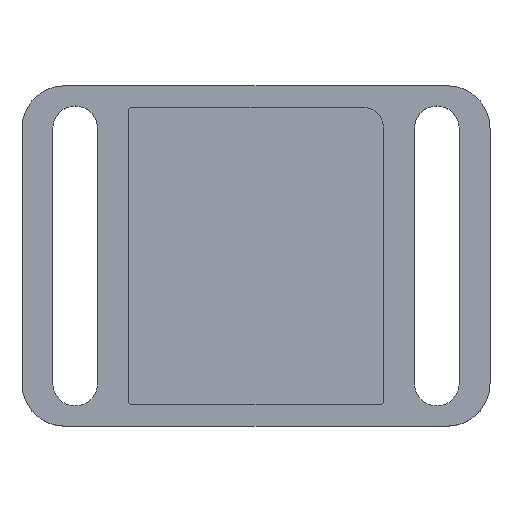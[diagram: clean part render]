
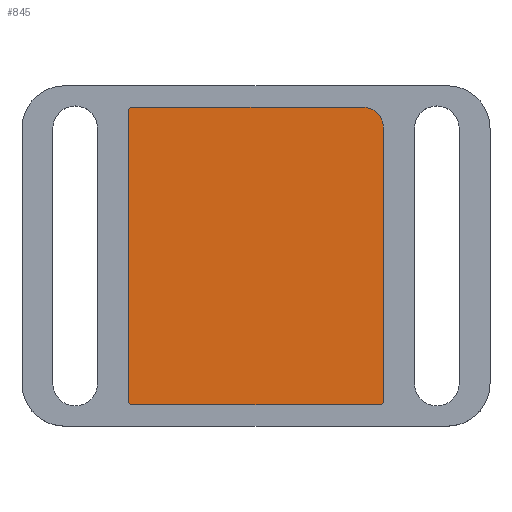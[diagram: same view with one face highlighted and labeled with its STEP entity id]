
A CAD part, top view. The second image highlights one B-rep face of the part: STEP entity #845.
In plain terms, the highlighted planar face has unit normal (0, 0, 1).
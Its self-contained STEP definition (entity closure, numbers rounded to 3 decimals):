
#296=AXIS2_PLACEMENT_3D('Circle Axis2P3D',#294,#295,$) ;
#367=AXIS2_PLACEMENT_3D('Circle Axis2P3D',#365,#366,$) ;
#429=AXIS2_PLACEMENT_3D('Circle Axis2P3D',#427,#428,$) ;
#828=AXIS2_PLACEMENT_3D('Plane Axis2P3D',#825,#826,#827) ;
#832=AXIS2_PLACEMENT_3D('Circle Axis2P3D',#830,#831,$) ;
#289=CARTESIAN_POINT('Vertex',(25.,-6.,3.)) ;
#294=CARTESIAN_POINT('Axis2P3D Location',(26.,-6.,3.)) ;
#298=CARTESIAN_POINT('Vertex',(26.,-5.,3.)) ;
#325=CARTESIAN_POINT('Line Origine',(25.,-40.,3.)) ;
#329=CARTESIAN_POINT('Vertex',(25.,-74.,3.)) ;
#360=CARTESIAN_POINT('Vertex',(26.,-75.,3.)) ;
#365=CARTESIAN_POINT('Axis2P3D Location',(26.,-74.,3.)) ;
#391=CARTESIAN_POINT('Vertex',(84.,-75.,3.)) ;
#396=CARTESIAN_POINT('Line Origine',(55.,-75.,3.)) ;
#422=CARTESIAN_POINT('Vertex',(85.,-74.,3.)) ;
#427=CARTESIAN_POINT('Axis2P3D Location',(84.,-74.,3.)) ;
#786=CARTESIAN_POINT('Vertex',(80.,-5.,3.)) ;
#789=CARTESIAN_POINT('Line Origine',(53.,-5.,3.)) ;
#806=CARTESIAN_POINT('Line Origine',(85.,-42.,3.)) ;
#810=CARTESIAN_POINT('Vertex',(85.,-10.,3.)) ;
#825=CARTESIAN_POINT('Axis2P3D Location',(0.,0.,3.)) ;
#830=CARTESIAN_POINT('Axis2P3D Location',(80.,-10.,3.)) ;
#295=DIRECTION('Axis2P3D Direction',(0.,0.,-1.)) ;
#326=DIRECTION('Vector Direction',(0.,-1.,0.)) ;
#366=DIRECTION('Axis2P3D Direction',(0.,0.,-1.)) ;
#397=DIRECTION('Vector Direction',(-1.,0.,0.)) ;
#428=DIRECTION('Axis2P3D Direction',(0.,0.,-1.)) ;
#790=DIRECTION('Vector Direction',(1.,0.,0.)) ;
#807=DIRECTION('Vector Direction',(0.,1.,0.)) ;
#826=DIRECTION('Axis2P3D Direction',(0.,0.,1.)) ;
#827=DIRECTION('Axis2P3D XDirection',(1.,0.,0.)) ;
#831=DIRECTION('Axis2P3D Direction',(0.,0.,1.)) ;
#327=VECTOR('Line Direction',#326,1.) ;
#398=VECTOR('Line Direction',#397,1.) ;
#791=VECTOR('Line Direction',#790,1.) ;
#808=VECTOR('Line Direction',#807,1.) ;
#836=ORIENTED_EDGE('',*,*,#793,.T.) ;
#837=ORIENTED_EDGE('',*,*,#300,.T.) ;
#838=ORIENTED_EDGE('',*,*,#331,.T.) ;
#839=ORIENTED_EDGE('',*,*,#369,.T.) ;
#840=ORIENTED_EDGE('',*,*,#400,.T.) ;
#841=ORIENTED_EDGE('',*,*,#431,.T.) ;
#842=ORIENTED_EDGE('',*,*,#812,.T.) ;
#843=ORIENTED_EDGE('',*,*,#834,.T.) ;
#845=ADVANCED_FACE('\X2\96F64EF651E04F554F53\X0\',(#844),#829,.T.) ;
#297=CIRCLE('generated circle',#296,1.) ;
#368=CIRCLE('generated circle',#367,1.) ;
#430=CIRCLE('generated circle',#429,1.) ;
#833=CIRCLE('generated circle',#832,5.) ;
#300=EDGE_CURVE('',#299,#290,#297,.F.) ;
#331=EDGE_CURVE('',#290,#330,#328,.T.) ;
#369=EDGE_CURVE('',#330,#361,#368,.F.) ;
#400=EDGE_CURVE('',#361,#392,#399,.F.) ;
#431=EDGE_CURVE('',#392,#423,#430,.F.) ;
#793=EDGE_CURVE('',#787,#299,#792,.F.) ;
#812=EDGE_CURVE('',#423,#811,#809,.T.) ;
#834=EDGE_CURVE('',#811,#787,#833,.T.) ;
#835=EDGE_LOOP('',(#836,#837,#838,#839,#840,#841,#842,#843)) ;
#844=FACE_OUTER_BOUND('',#835,.T.) ;
#328=LINE('Line',#325,#327) ;
#399=LINE('Line',#396,#398) ;
#792=LINE('Line',#789,#791) ;
#809=LINE('Line',#806,#808) ;
#829=PLANE('',#828) ;
#290=VERTEX_POINT('',#289) ;
#299=VERTEX_POINT('',#298) ;
#330=VERTEX_POINT('',#329) ;
#361=VERTEX_POINT('',#360) ;
#392=VERTEX_POINT('',#391) ;
#423=VERTEX_POINT('',#422) ;
#787=VERTEX_POINT('',#786) ;
#811=VERTEX_POINT('',#810) ;
